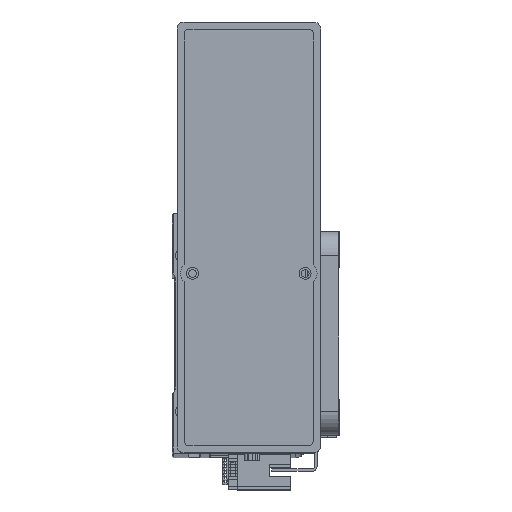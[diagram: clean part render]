
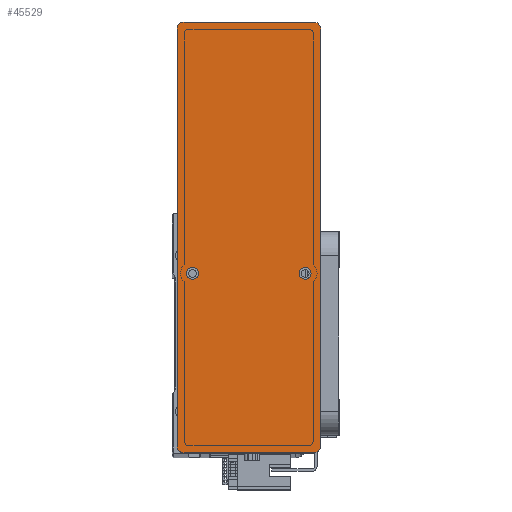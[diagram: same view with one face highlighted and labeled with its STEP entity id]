
A CAD part, top view. The second image highlights one B-rep face of the part: STEP entity #45529.
In plain terms, the highlighted planar face has unit normal (0, 0, 1) as drawn and (0, 0, -1) by its records, which use the part's own axes.
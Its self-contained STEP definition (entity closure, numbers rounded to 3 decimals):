
#693 = VERTEX_POINT ( 'NONE', #34783 ) ;
#986 = CARTESIAN_POINT ( 'NONE',  ( -15., 23.5, 0. ) ) ;
#1727 = PLANE ( 'NONE',  #50650 ) ;
#2342 = CIRCLE ( 'NONE', #23910, 3. ) ;
#3014 = VERTEX_POINT ( 'NONE', #60870 ) ;
#4039 = VERTEX_POINT ( 'NONE', #7710 ) ;
#5872 = DIRECTION ( 'NONE',  ( -1., 0., 0. ) ) ;
#6344 = DIRECTION ( 'NONE',  ( 1., 0., 0. ) ) ;
#6401 = DIRECTION ( 'NONE',  ( 0., 0., 1. ) ) ;
#6553 = CARTESIAN_POINT ( 'NONE',  ( 90., -30., 0. ) ) ;
#6570 = EDGE_LOOP ( 'NONE', ( #19074, #27336, #58794, #47762, #27285, #7312, #30851, #61633 ) ) ;
#6619 = CARTESIAN_POINT ( 'NONE',  ( 0., 0., 0. ) ) ;
#7312 = ORIENTED_EDGE ( 'NONE', *, *, #58477, .T. ) ;
#7364 = CIRCLE ( 'NONE', #51811, 2.5 ) ;
#7710 = CARTESIAN_POINT ( 'NONE',  ( 87., 30., 0. ) ) ;
#8011 = CARTESIAN_POINT ( 'NONE',  ( -15., -23.5, 0. ) ) ;
#8025 = FACE_BOUND ( 'NONE', #44581, .T. ) ;
#8861 = VERTEX_POINT ( 'NONE', #26857 ) ;
#8978 = CARTESIAN_POINT ( 'NONE',  ( 87., -27., 0. ) ) ;
#9428 = CARTESIAN_POINT ( 'NONE',  ( -87., 30., 0. ) ) ;
#10411 = CARTESIAN_POINT ( 'NONE',  ( -87., 27., 0. ) ) ;
#11803 = CARTESIAN_POINT ( 'NONE',  ( -15., 23.5, 0. ) ) ;
#11875 = VECTOR ( 'NONE', #6344, 1000. ) ;
#12864 = DIRECTION ( 'NONE',  ( -1., 0., 0. ) ) ;
#12934 = DIRECTION ( 'NONE',  ( -1., 0., 0. ) ) ;
#13145 = DIRECTION ( 'NONE',  ( 0., -1., 0. ) ) ;
#13397 = LINE ( 'NONE', #6553, #11875 ) ;
#13831 = DIRECTION ( 'NONE',  ( 1., 0., 0. ) ) ;
#15041 = CARTESIAN_POINT ( 'NONE',  ( -15., -23.5, 0. ) ) ;
#15136 = DIRECTION ( 'NONE',  ( 0., 0., -1. ) ) ;
#15294 = DIRECTION ( 'NONE',  ( 1., 0., 0. ) ) ;
#16007 = CIRCLE ( 'NONE', #40980, 3. ) ;
#16254 = CIRCLE ( 'NONE', #58836, 2.5 ) ;
#16685 = DIRECTION ( 'NONE',  ( -1., 0., 0. ) ) ;
#19074 = ORIENTED_EDGE ( 'NONE', *, *, #43067, .F. ) ;
#19440 = VERTEX_POINT ( 'NONE', #30353 ) ;
#19920 = DIRECTION ( 'NONE',  ( -1., 0., 0. ) ) ;
#20908 = FACE_OUTER_BOUND ( 'NONE', #6570, .T. ) ;
#21012 = EDGE_CURVE ( 'NONE', #56353, #19440, #53116, .T. ) ;
#21266 = CARTESIAN_POINT ( 'NONE',  ( -87., -27., 0. ) ) ;
#23030 = LINE ( 'NONE', #37123, #34385 ) ;
#23240 = LINE ( 'NONE', #50634, #49050 ) ;
#23856 = EDGE_CURVE ( 'NONE', #32499, #53720, #13397, .T. ) ;
#23910 = AXIS2_PLACEMENT_3D ( 'NONE', #44231, #15136, #49104 ) ;
#24994 = CARTESIAN_POINT ( 'NONE',  ( -12.5, -23.5, 0. ) ) ;
#25957 = AXIS2_PLACEMENT_3D ( 'NONE', #21266, #55326, #26154 ) ;
#26154 = DIRECTION ( 'NONE',  ( 1., 0., 0. ) ) ;
#26751 = VECTOR ( 'NONE', #13145, 1000. ) ;
#26857 = CARTESIAN_POINT ( 'NONE',  ( -17.5, 23.5, 0. ) ) ;
#26903 = ORIENTED_EDGE ( 'NONE', *, *, #29314, .F. ) ;
#27285 = ORIENTED_EDGE ( 'NONE', *, *, #61208, .F. ) ;
#27336 = ORIENTED_EDGE ( 'NONE', *, *, #50010, .T. ) ;
#27823 = CIRCLE ( 'NONE', #47314, 3. ) ;
#28244 = CARTESIAN_POINT ( 'NONE',  ( -90., 27., 0. ) ) ;
#29314 = EDGE_CURVE ( 'NONE', #42844, #8861, #7364, .T. ) ;
#30353 = CARTESIAN_POINT ( 'NONE',  ( -17.5, -23.5, 0. ) ) ;
#30851 = ORIENTED_EDGE ( 'NONE', *, *, #33060, .F. ) ;
#31391 = EDGE_CURVE ( 'NONE', #32499, #57339, #55577, .T. ) ;
#32499 = VERTEX_POINT ( 'NONE', #36811 ) ;
#32845 = CIRCLE ( 'NONE', #60987, 2.5 ) ;
#33060 = EDGE_CURVE ( 'NONE', #4039, #41720, #23030, .T. ) ;
#34054 = CARTESIAN_POINT ( 'NONE',  ( -12.5, 23.5, 0. ) ) ;
#34385 = VECTOR ( 'NONE', #12934, 1000. ) ;
#34783 = CARTESIAN_POINT ( 'NONE',  ( 90., 27., 0. ) ) ;
#34895 = DIRECTION ( 'NONE',  ( 0., 0., -1. ) ) ;
#36811 = CARTESIAN_POINT ( 'NONE',  ( -87., -30., 0. ) ) ;
#37123 = CARTESIAN_POINT ( 'NONE',  ( 90., 30., 0. ) ) ;
#37818 = CARTESIAN_POINT ( 'NONE',  ( 87., -30., 0. ) ) ;
#40575 = DIRECTION ( 'NONE',  ( 1., 0., 0. ) ) ;
#40874 = DIRECTION ( 'NONE',  ( 0., 1., 0. ) ) ;
#40980 = AXIS2_PLACEMENT_3D ( 'NONE', #10411, #44399, #15294 ) ;
#41720 = VERTEX_POINT ( 'NONE', #9428 ) ;
#41818 = EDGE_CURVE ( 'NONE', #4039, #693, #2342, .T. ) ;
#41964 = DIRECTION ( 'NONE',  ( 0., 0., -1. ) ) ;
#42042 = CARTESIAN_POINT ( 'NONE',  ( -90., -30., 0. ) ) ;
#42163 = VERTEX_POINT ( 'NONE', #28244 ) ;
#42844 = VERTEX_POINT ( 'NONE', #34054 ) ;
#42938 = DIRECTION ( 'NONE',  ( 0., 0., -1. ) ) ;
#43067 = EDGE_CURVE ( 'NONE', #3014, #693, #23240, .T. ) ;
#43791 = ORIENTED_EDGE ( 'NONE', *, *, #50623, .F. ) ;
#44231 = CARTESIAN_POINT ( 'NONE',  ( 87., 27., 0. ) ) ;
#44399 = DIRECTION ( 'NONE',  ( 0., 0., -1. ) ) ;
#44581 = EDGE_LOOP ( 'NONE', ( #43791, #53645 ) ) ;
#45529 = ADVANCED_FACE ( 'NONE', ( #46790, #8025, #20908 ), #1727, .F. ) ;
#45811 = DIRECTION ( 'NONE',  ( 0., 0., -1. ) ) ;
#46466 = EDGE_CURVE ( 'NONE', #8861, #42844, #32845, .T. ) ;
#46790 = FACE_BOUND ( 'NONE', #55895, .T. ) ;
#47314 = AXIS2_PLACEMENT_3D ( 'NONE', #8978, #42938, #13831 ) ;
#47762 = ORIENTED_EDGE ( 'NONE', *, *, #31391, .T. ) ;
#49017 = DIRECTION ( 'NONE',  ( 0., 0., -1. ) ) ;
#49050 = VECTOR ( 'NONE', #40874, 1000. ) ;
#49104 = DIRECTION ( 'NONE',  ( 1., 0., 0. ) ) ;
#50010 = EDGE_CURVE ( 'NONE', #3014, #53720, #27823, .T. ) ;
#50623 = EDGE_CURVE ( 'NONE', #19440, #56353, #16254, .T. ) ;
#50634 = CARTESIAN_POINT ( 'NONE',  ( 90., -30., 0. ) ) ;
#50650 = AXIS2_PLACEMENT_3D ( 'NONE', #6619, #6401, #40575 ) ;
#51811 = AXIS2_PLACEMENT_3D ( 'NONE', #11803, #45811, #16685 ) ;
#52618 = LINE ( 'NONE', #42042, #26751 ) ;
#53116 = CIRCLE ( 'NONE', #58975, 2.5 ) ;
#53645 = ORIENTED_EDGE ( 'NONE', *, *, #21012, .F. ) ;
#53720 = VERTEX_POINT ( 'NONE', #37818 ) ;
#53775 = ORIENTED_EDGE ( 'NONE', *, *, #46466, .F. ) ;
#54782 = CARTESIAN_POINT ( 'NONE',  ( -90., -27., 0. ) ) ;
#55326 = DIRECTION ( 'NONE',  ( 0., 0., -1. ) ) ;
#55577 = CIRCLE ( 'NONE', #25957, 3. ) ;
#55895 = EDGE_LOOP ( 'NONE', ( #53775, #26903 ) ) ;
#56353 = VERTEX_POINT ( 'NONE', #24994 ) ;
#57339 = VERTEX_POINT ( 'NONE', #54782 ) ;
#58477 = EDGE_CURVE ( 'NONE', #42163, #41720, #16007, .T. ) ;
#58794 = ORIENTED_EDGE ( 'NONE', *, *, #23856, .F. ) ;
#58836 = AXIS2_PLACEMENT_3D ( 'NONE', #15041, #49017, #19920 ) ;
#58975 = AXIS2_PLACEMENT_3D ( 'NONE', #8011, #41964, #12864 ) ;
#60870 = CARTESIAN_POINT ( 'NONE',  ( 90., -27., 0. ) ) ;
#60987 = AXIS2_PLACEMENT_3D ( 'NONE', #986, #34895, #5872 ) ;
#61208 = EDGE_CURVE ( 'NONE', #42163, #57339, #52618, .T. ) ;
#61633 = ORIENTED_EDGE ( 'NONE', *, *, #41818, .T. ) ;
